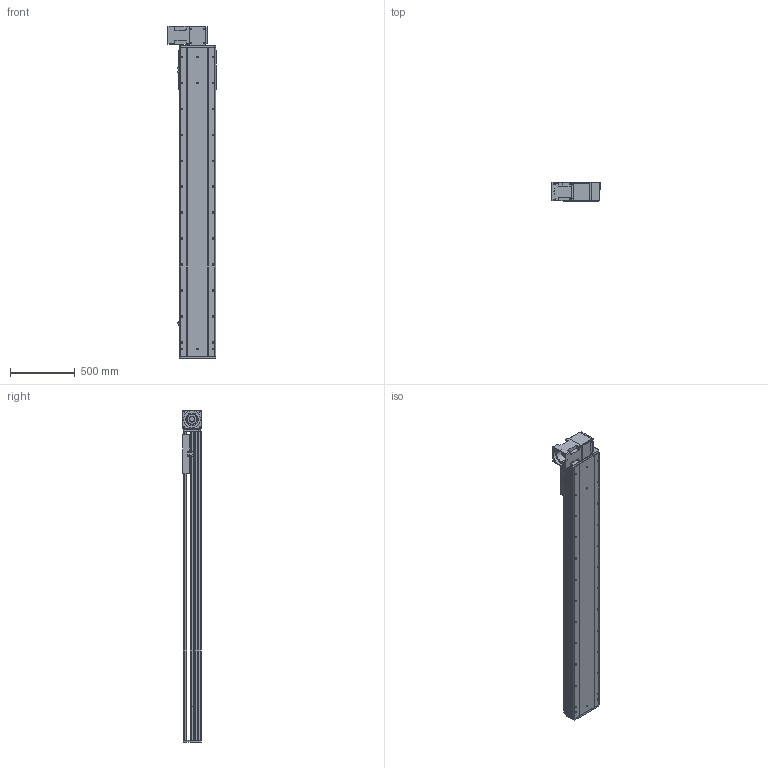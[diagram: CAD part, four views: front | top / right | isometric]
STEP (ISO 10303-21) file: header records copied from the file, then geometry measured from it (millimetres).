
FILE_DESCRIPTION (( 'STEP AP214' ), '1' );
FILE_NAME ('RTB28R-XX-1950-BR-M100-XX-C4.STEP', '2025-12-22T01:20:05', ( '' ), ( '' ), 'SwSTEP 2.0', 'SolidWorks 2018', '' );
FILE_SCHEMA (( 'AUTOMOTIVE_DESIGN' ));
Length unit declared in the file: millimetre
Products named in the file (4): RTB28R-XX-1950-BR-M100-XX-C4; RTB28S-GY-008^RTB28R-XX-XX-BR-M100-XX-C4; RTB28S-GY-004^RTB28R-XX-XX-BR-M100-XX-C4; RTB28S-GY-011^RTB28R-XX-XX-BR-M100-XX-C4
Assembly tree (3 placements, depth 2):
  RTB28R-XX-1950-BR-M100-XX-C4
    RTB28S-GY-011^RTB28R-XX-XX-BR-M100-XX-C4
    RTB28S-GY-004^RTB28R-XX-XX-BR-M100-XX-C4
    RTB28S-GY-008^RTB28R-XX-XX-BR-M100-XX-C4
Bounding box: 370 x 145 x 2557 mm (x, y, z)
Volume: 44568129.3 mm3; surface area: 4213005.4 mm2
Topology: 3 solids, 4 shells, 1038 faces, 2760 edges, 1776 vertices
Faces by surface type: plane 466, cylinder 401, bspline 87, cone 80, torus 4
Entity records: 44632 total; most frequent: CARTESIAN_POINT 11995, ORIENTED_EDGE 5456, DIRECTION 5328, EDGE_CURVE 2728, AXIS2_PLACEMENT_3D 1853, VERTEX_POINT 1776, VECTOR 1622, LINE 1622
